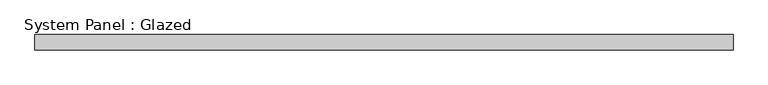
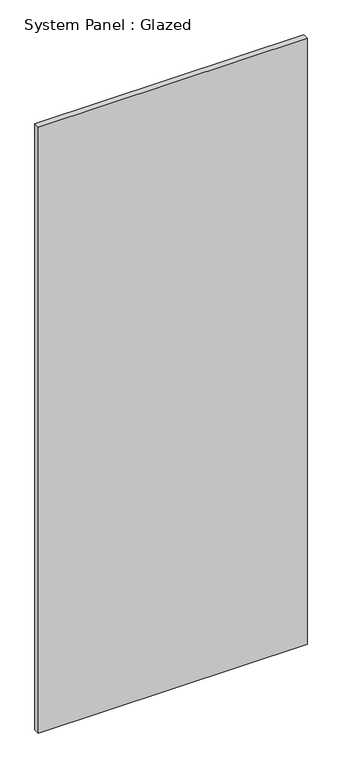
"""IFC4 building model written with IfcOpenShell, lengths in millimetres: plate geometry, System Panel : Glazed."""

from ifc_helpers import new_model, si_unit, origin, origin_with_axes, place, context, project, spatial, polyline, outline, extrude, source, transform, mapped, element, save


def system_panel_glazed_6999c3ef(model_context):
    return source(origin(), model_context, "Body", "SweptSolid", [
        extrude(outline(polyline([(587.4999997, 19.05), (-587.4999997, 19.05), (-587.4999997, 44.45), (587.4999997, 44.45), (587.4999997, 19.05)])), origin_with_axes(), (0.0, 0.0, 1.0), 2800.0),
    ])


if __name__ == "__main__":
    model = new_model("IFC4")
    model_context = context("Model", 3, world=origin())
    ifc_project = project(units=[si_unit("LENGTHUNIT", "METRE", prefix="MILLI")], contexts=[model_context])
    site = spatial("IfcSite", under=ifc_project)
    building = spatial("IfcBuilding", under=site)
    placement = place(None, origin())
    system_panel_glazed_shape = system_panel_glazed_6999c3ef(model_context)
    element("IfcPlate", 1, ObjectType="System Panel : Glazed", at=placement, inside=building, context=model_context, shape_type="MappedRepresentation", body=[
        mapped(system_panel_glazed_shape, transform((0.0, 0.0, 0.0), x_axis=(1.0, 0.0, 0.0), y_axis=(0.0, 1.0, 0.0), z_axis=(0.0, 0.0, 1.0))),
    ])
    save(model, "model.ifc")
